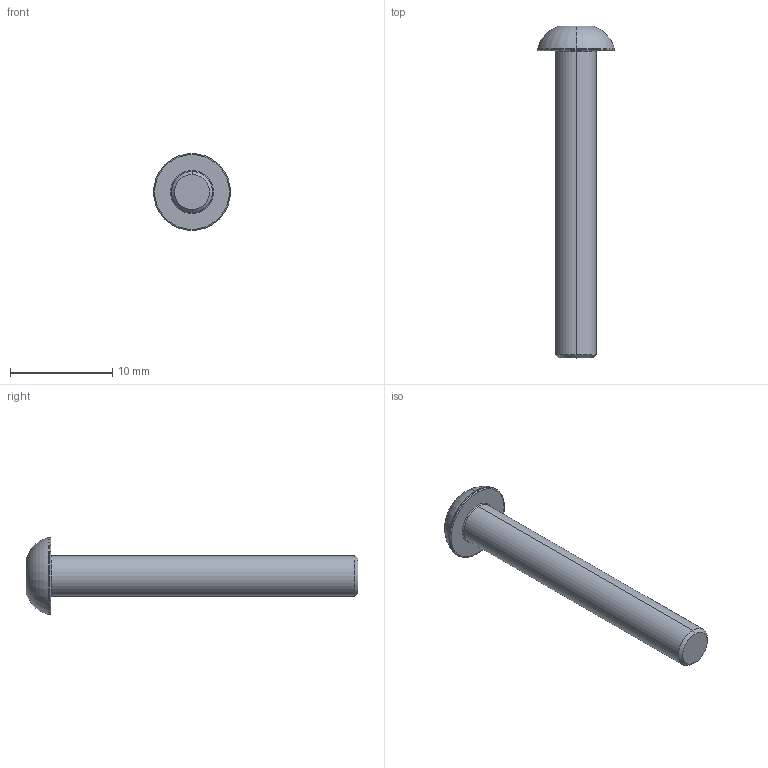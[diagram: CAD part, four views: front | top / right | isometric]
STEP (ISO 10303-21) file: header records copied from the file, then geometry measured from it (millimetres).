
FILE_DESCRIPTION (( 'STEP AP203' ), '1' );
FILE_NAME ('LGDD-TD-M4x30.STEP', '2026-08-14T01:19:15', ( '' ), ( '' ), 'SwSTEP 2.0', 'SolidWorks 2020', '' );
FILE_SCHEMA (( 'CONFIG_CONTROL_DESIGN' ));
Length unit declared in the file: millimetre
Products named in the file (1): LGDD-TD-M4x30
Bounding box: 7.5 x 32.4 x 7.5 mm (x, y, z)
Volume: 443.7 mm3; surface area: 502.7 mm2
Topology: 1 solids, 1 shells, 31 faces, 59 edges, 32 vertices
Faces by surface type: plane 10, cone 9, torus 8, cylinder 4
Entity records: 864 total; most frequent: CARTESIAN_POINT 154, DIRECTION 149, ORIENTED_EDGE 118, AXIS2_PLACEMENT_3D 65, EDGE_CURVE 59, CIRCLE 33, EDGE_LOOP 33, VERTEX_POINT 32
